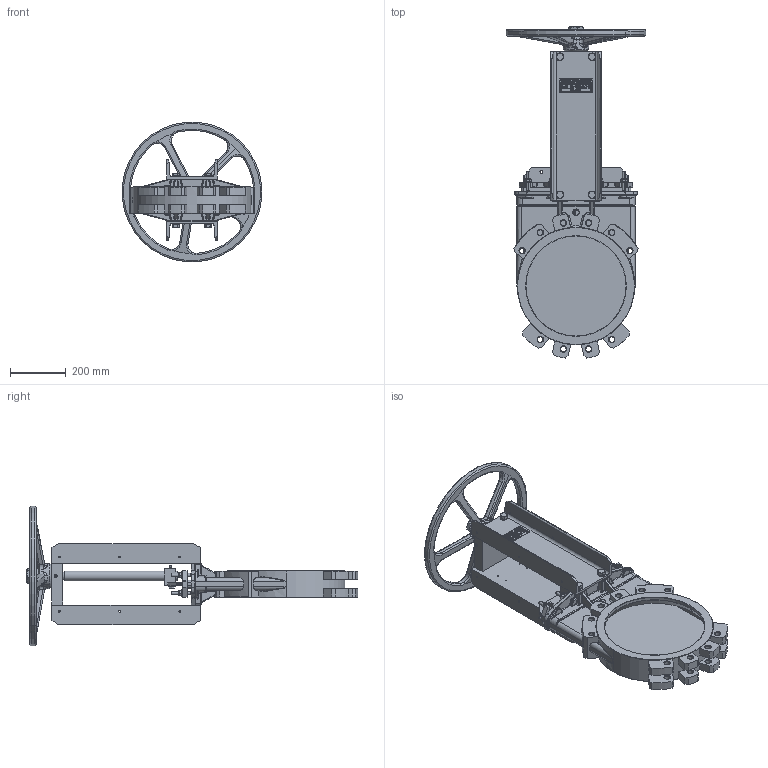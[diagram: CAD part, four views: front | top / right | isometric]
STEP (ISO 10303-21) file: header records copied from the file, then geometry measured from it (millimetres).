
FILE_DESCRIPTION (( 'STEP AP203' ), '1' );
FILE_NAME ('VG6400-001EP0350.STEP', '2024-07-24T13:49:56', ( '' ), ( '' ), 'SwSTEP 2.0', 'SolidWorks 2020', '' );
FILE_SCHEMA (( 'CONFIG_CONTROL_DESIGN' ));
Length unit declared in the file: millimetre
Products named in the file (1): VG6400-001EP0350
Bounding box: 498.1 x 1186.68 x 498.1 mm (x, y, z)
Surface area: 2261066.9 mm2 (no closed solid volume)
Topology: 0 solids, 146 shells, 1547 faces, 8504 edges, 6955 vertices
Faces by surface type: plane 564, cylinder 503, torus 172, bspline 156, cone 147, sphere 5
Entity records: 116161 total; most frequent: CARTESIAN_POINT 55313, ORIENTED_EDGE 11496, DIRECTION 10672, EDGE_CURVE 8475, VERTEX_POINT 6954, VECTOR 4198, LINE 4198, AXIS2_PLACEMENT_3D 3237
